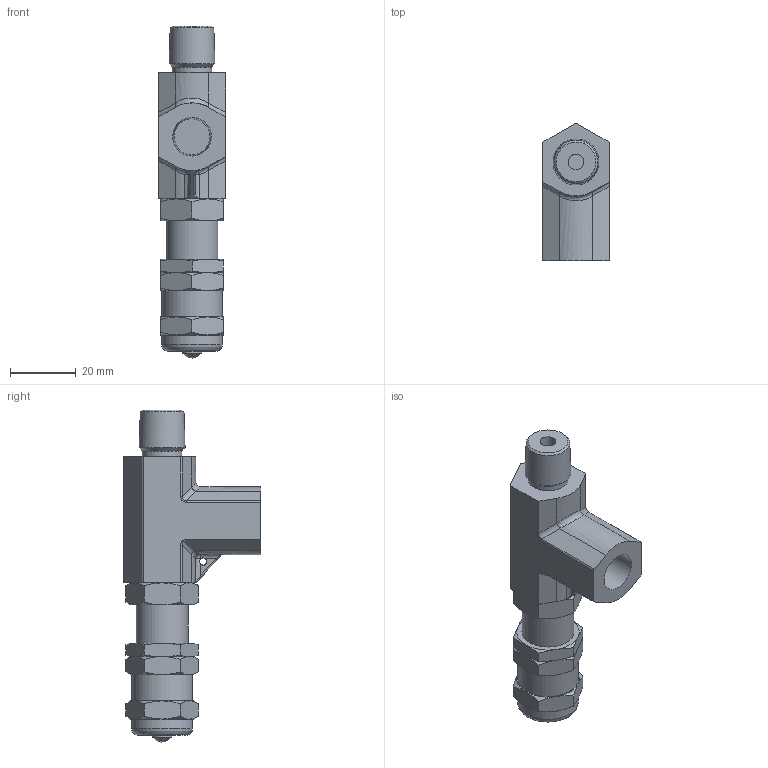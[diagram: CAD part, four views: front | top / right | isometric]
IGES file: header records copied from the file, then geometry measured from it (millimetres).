
Global section: file name: SRV-M4N-F4N; native system: Autodesk Inventor 2016; preprocessor: unknown; author: 이승민,,11,0; organization: 20161227.035521; date: 20161229.080652; units: millimetre
Bounding box: 20.6 x 41.82 x 101 mm (x, y, z)
Volume: 29290.3 mm3; surface area: 13609.5 mm2
Topology: 5 solids, 5 shells, 201 faces, 487 edges, 312 vertices
Faces by surface type: bspline 201
